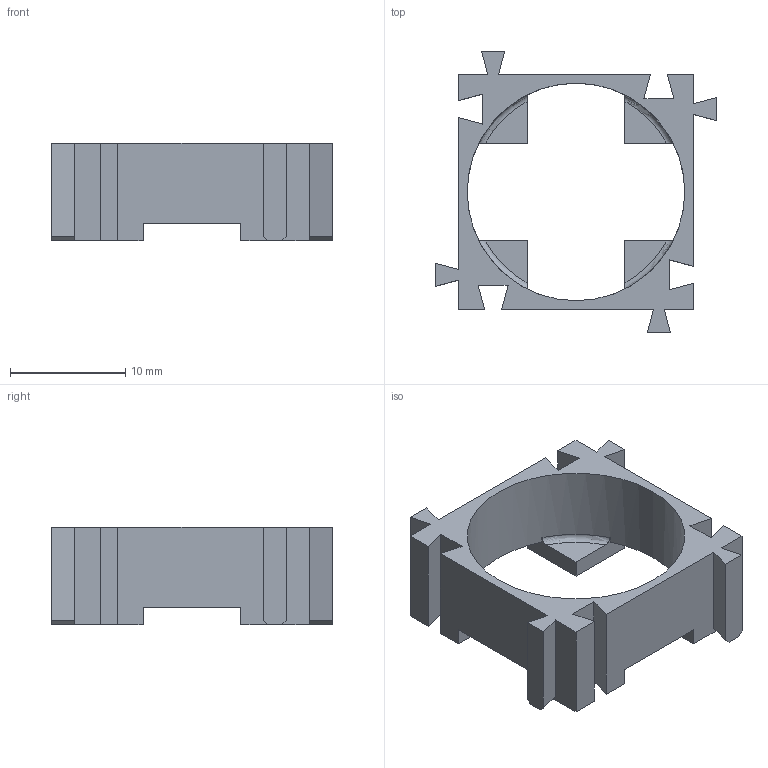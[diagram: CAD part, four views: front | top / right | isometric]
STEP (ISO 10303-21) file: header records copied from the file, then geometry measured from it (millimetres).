
FILE_DESCRIPTION(/* description */ (''),/* implementation_level */ '2;1');
FILE_NAME(/* name */ 'D:\OneDrive\Projects\RepRap\18650 battery holder\improved.stp',/* time_stamp */ '2023-02-16T10:28:15+01:00',/* author */ ('erwin'),/* organization */ (''),/* preprocessor_version */ 'ST-DEVELOPER v18.1',/* originating_system */ 'Autodesk Inventor 2022',/* authorisation */ '');
FILE_SCHEMA (('AUTOMOTIVE_DESIGN { 1 0 10303 214 3 1 1 }'));
Length unit declared in the file: millimetre
Products named in the file (1): improved
Bounding box: 24.4 x 24.4 x 8.5 mm (x, y, z)
Volume: 1115.7 mm3; surface area: 1830.1 mm2
Topology: 1 solids, 1 shells, 70 faces, 207 edges, 138 vertices
Faces by surface type: plane 65, torus 4, cylinder 1
Full cylindrical faces by diameter (mm): 18.9 x1
Entity records: 2406 total; most frequent: CARTESIAN_POINT 488, ORIENTED_EDGE 414, DIRECTION 355, EDGE_CURVE 207, LINE 185, VECTOR 185, VERTEX_POINT 138, AXIS2_PLACEMENT_3D 85
